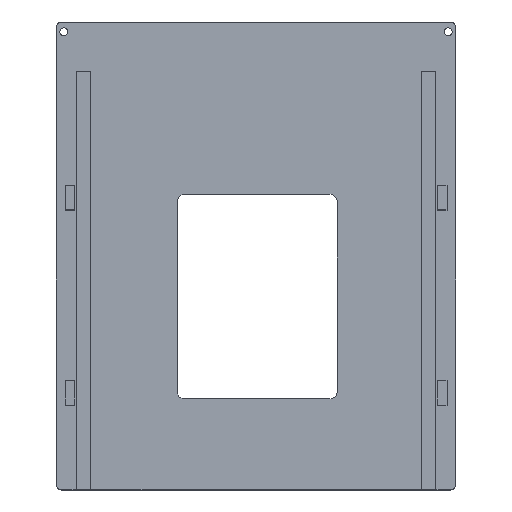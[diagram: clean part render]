
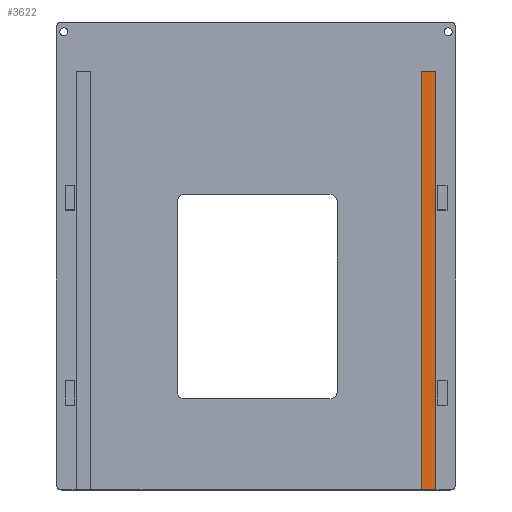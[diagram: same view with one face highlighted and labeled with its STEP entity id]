
A CAD part, top view. The second image highlights one B-rep face of the part: STEP entity #3622.
In plain terms, the highlighted planar face has unit normal (0, 0, 1).
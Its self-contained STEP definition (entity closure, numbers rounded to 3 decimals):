
#182 = PLANE('',#183);
#183 = AXIS2_PLACEMENT_3D('',#184,#185,#186);
#184 = CARTESIAN_POINT('',(6.,16.,11.));
#185 = DIRECTION('',(0.,1.,0.));
#186 = DIRECTION('',(0.,0.,1.));
#317 = PLANE('',#318);
#318 = AXIS2_PLACEMENT_3D('',#319,#320,#321);
#319 = CARTESIAN_POINT('',(154.05,16.,14.2));
#320 = DIRECTION('',(1.,0.,0.));
#321 = DIRECTION('',(0.,0.,1.));
#345 = PLANE('',#346);
#346 = AXIS2_PLACEMENT_3D('',#347,#348,#349);
#347 = CARTESIAN_POINT('',(154.05,186.,14.2));
#348 = DIRECTION('',(0.,1.,0.));
#349 = DIRECTION('',(0.,0.,1.));
#373 = PLANE('',#374);
#374 = AXIS2_PLACEMENT_3D('',#375,#376,#377);
#375 = CARTESIAN_POINT('',(160.05,16.,14.2));
#376 = DIRECTION('',(1.,0.,0.));
#377 = DIRECTION('',(0.,0.,1.));
#1851 = VERTEX_POINT('',#1852);
#1852 = CARTESIAN_POINT('',(154.05,16.,18.));
#1873 = EDGE_CURVE('',#1851,#1874,#1876,.T.);
#1874 = VERTEX_POINT('',#1875);
#1875 = CARTESIAN_POINT('',(160.05,16.,18.));
#1876 = SURFACE_CURVE('',#1877,(#1881,#1888),.PCURVE_S1.);
#1877 = LINE('',#1878,#1879);
#1878 = CARTESIAN_POINT('',(154.05,16.,18.));
#1879 = VECTOR('',#1880,1.);
#1880 = DIRECTION('',(1.,0.,0.));
#1881 = PCURVE('',#182,#1882);
#1882 = DEFINITIONAL_REPRESENTATION('',(#1883),#1887);
#1883 = LINE('',#1884,#1885);
#1884 = CARTESIAN_POINT('',(7.,148.05));
#1885 = VECTOR('',#1886,1.);
#1886 = DIRECTION('',(0.,1.));
#1887 = ( GEOMETRIC_REPRESENTATION_CONTEXT(2) 
PARAMETRIC_REPRESENTATION_CONTEXT() REPRESENTATION_CONTEXT('2D SPACE',''
  ) );
#1888 = PCURVE('',#1889,#1894);
#1889 = PLANE('',#1890);
#1890 = AXIS2_PLACEMENT_3D('',#1891,#1892,#1893);
#1891 = CARTESIAN_POINT('',(154.05,16.,18.));
#1892 = DIRECTION('',(0.,0.,1.));
#1893 = DIRECTION('',(1.,0.,0.));
#1894 = DEFINITIONAL_REPRESENTATION('',(#1895),#1899);
#1895 = LINE('',#1896,#1897);
#1896 = CARTESIAN_POINT('',(0.,0.));
#1897 = VECTOR('',#1898,1.);
#1898 = DIRECTION('',(1.,0.));
#1899 = ( GEOMETRIC_REPRESENTATION_CONTEXT(2) 
PARAMETRIC_REPRESENTATION_CONTEXT() REPRESENTATION_CONTEXT('2D SPACE',''
  ) );
#2163 = VERTEX_POINT('',#2164);
#2164 = CARTESIAN_POINT('',(154.05,186.,18.));
#2185 = EDGE_CURVE('',#1851,#2163,#2186,.T.);
#2186 = SURFACE_CURVE('',#2187,(#2191,#2198),.PCURVE_S1.);
#2187 = LINE('',#2188,#2189);
#2188 = CARTESIAN_POINT('',(154.05,16.,18.));
#2189 = VECTOR('',#2190,1.);
#2190 = DIRECTION('',(0.,1.,0.));
#2191 = PCURVE('',#317,#2192);
#2192 = DEFINITIONAL_REPRESENTATION('',(#2193),#2197);
#2193 = LINE('',#2194,#2195);
#2194 = CARTESIAN_POINT('',(3.8,0.));
#2195 = VECTOR('',#2196,1.);
#2196 = DIRECTION('',(0.,-1.));
#2197 = ( GEOMETRIC_REPRESENTATION_CONTEXT(2) 
PARAMETRIC_REPRESENTATION_CONTEXT() REPRESENTATION_CONTEXT('2D SPACE',''
  ) );
#2198 = PCURVE('',#1889,#2199);
#2199 = DEFINITIONAL_REPRESENTATION('',(#2200),#2204);
#2200 = LINE('',#2201,#2202);
#2201 = CARTESIAN_POINT('',(0.,0.));
#2202 = VECTOR('',#2203,1.);
#2203 = DIRECTION('',(0.,1.));
#2204 = ( GEOMETRIC_REPRESENTATION_CONTEXT(2) 
PARAMETRIC_REPRESENTATION_CONTEXT() REPRESENTATION_CONTEXT('2D SPACE',''
  ) );
#2212 = VERTEX_POINT('',#2213);
#2213 = CARTESIAN_POINT('',(160.05,186.,18.));
#2234 = EDGE_CURVE('',#1874,#2212,#2235,.T.);
#2235 = SURFACE_CURVE('',#2236,(#2240,#2247),.PCURVE_S1.);
#2236 = LINE('',#2237,#2238);
#2237 = CARTESIAN_POINT('',(160.05,16.,18.));
#2238 = VECTOR('',#2239,1.);
#2239 = DIRECTION('',(0.,1.,0.));
#2240 = PCURVE('',#373,#2241);
#2241 = DEFINITIONAL_REPRESENTATION('',(#2242),#2246);
#2242 = LINE('',#2243,#2244);
#2243 = CARTESIAN_POINT('',(3.8,0.));
#2244 = VECTOR('',#2245,1.);
#2245 = DIRECTION('',(0.,-1.));
#2246 = ( GEOMETRIC_REPRESENTATION_CONTEXT(2) 
PARAMETRIC_REPRESENTATION_CONTEXT() REPRESENTATION_CONTEXT('2D SPACE',''
  ) );
#2247 = PCURVE('',#1889,#2248);
#2248 = DEFINITIONAL_REPRESENTATION('',(#2249),#2253);
#2249 = LINE('',#2250,#2251);
#2250 = CARTESIAN_POINT('',(6.,0.));
#2251 = VECTOR('',#2252,1.);
#2252 = DIRECTION('',(0.,1.));
#2253 = ( GEOMETRIC_REPRESENTATION_CONTEXT(2) 
PARAMETRIC_REPRESENTATION_CONTEXT() REPRESENTATION_CONTEXT('2D SPACE',''
  ) );
#2260 = EDGE_CURVE('',#2163,#2212,#2261,.T.);
#2261 = SURFACE_CURVE('',#2262,(#2266,#2273),.PCURVE_S1.);
#2262 = LINE('',#2263,#2264);
#2263 = CARTESIAN_POINT('',(154.05,186.,18.));
#2264 = VECTOR('',#2265,1.);
#2265 = DIRECTION('',(1.,0.,0.));
#2266 = PCURVE('',#345,#2267);
#2267 = DEFINITIONAL_REPRESENTATION('',(#2268),#2272);
#2268 = LINE('',#2269,#2270);
#2269 = CARTESIAN_POINT('',(3.8,0.));
#2270 = VECTOR('',#2271,1.);
#2271 = DIRECTION('',(0.,1.));
#2272 = ( GEOMETRIC_REPRESENTATION_CONTEXT(2) 
PARAMETRIC_REPRESENTATION_CONTEXT() REPRESENTATION_CONTEXT('2D SPACE',''
  ) );
#2273 = PCURVE('',#1889,#2274);
#2274 = DEFINITIONAL_REPRESENTATION('',(#2275),#2279);
#2275 = LINE('',#2276,#2277);
#2276 = CARTESIAN_POINT('',(0.,170.));
#2277 = VECTOR('',#2278,1.);
#2278 = DIRECTION('',(1.,0.));
#2279 = ( GEOMETRIC_REPRESENTATION_CONTEXT(2) 
PARAMETRIC_REPRESENTATION_CONTEXT() REPRESENTATION_CONTEXT('2D SPACE',''
  ) );
#3622 = ADVANCED_FACE('',(#3623),#1889,.T.);
#3623 = FACE_BOUND('',#3624,.T.);
#3624 = EDGE_LOOP('',(#3625,#3626,#3627,#3628));
#3625 = ORIENTED_EDGE('',*,*,#2185,.F.);
#3626 = ORIENTED_EDGE('',*,*,#1873,.T.);
#3627 = ORIENTED_EDGE('',*,*,#2234,.T.);
#3628 = ORIENTED_EDGE('',*,*,#2260,.F.);
